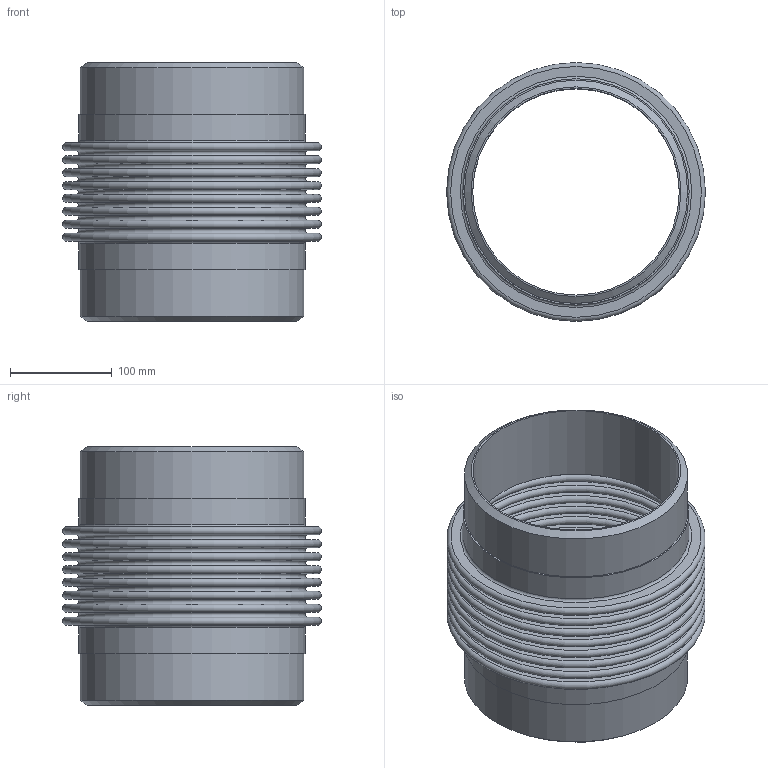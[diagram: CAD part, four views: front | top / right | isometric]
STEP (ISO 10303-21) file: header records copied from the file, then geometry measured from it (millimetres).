
FILE_DESCRIPTION(/* description */ ('EXPANSION JOINT,SINGLE, WELD ENDS,4 INCH NOMINAL'),/* implementation_level */ '2;1');
FILE_NAME(/* name */ 'US-8-300S- WELD-ENDS.stp',/* time_stamp */ '2026-07-28T10:58:39-05:00',/* author */ ('jorgef'),/* organization */ (''),/* preprocessor_version */ 'ST-DEVELOPER v20.1',/* originating_system */ 'Autodesk Inventor 2026',/* authorisation */ '');
FILE_SCHEMA (('AUTOMOTIVE_DESIGN { 1 0 10303 214 3 1 1 }'));
Length unit declared in the file: inch
Products named in the file (3): SINGLE STOCK  BELLOW WELDED ENDS  8- 300 PSIG; STOCK BELLOW - US-8-8-300S; PIPE-8 - 300 PSIG
Assembly tree (3 placements, depth 2):
  SINGLE STOCK  BELLOW WELDED ENDS  8- 300 PSIG
    STOCK BELLOW - US-8-8-300S
    PIPE-8 - 300 PSIG  x2
Bounding box: 254 x 254 x 254 mm (x, y, z)
Volume: 1211485 mm3; surface area: 760896.8 mm2
Topology: 5 solids, 5 shells, 86 faces, 132 edges, 89 vertices
Faces by surface type: plane 42, torus 34, cylinder 8, cone 2
Full cylindrical faces by diameter (mm): 202.717 x2, 219.075 x4, 222.123 x2
Entity records: 2033 total; most frequent: DIRECTION 413, CARTESIAN_POINT 293, ORIENTED_EDGE 246, AXIS2_PLACEMENT_3D 203, EDGE_CURVE 123, EDGE_LOOP 121, CIRCLE 116, VERTEX_POINT 82
